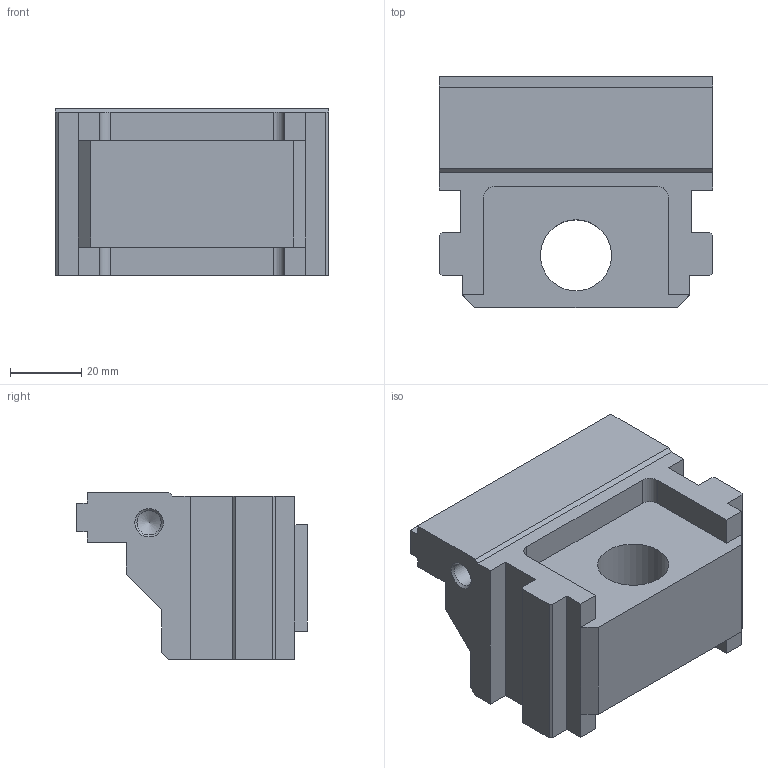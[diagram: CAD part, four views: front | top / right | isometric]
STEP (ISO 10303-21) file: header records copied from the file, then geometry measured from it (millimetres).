
FILE_DESCRIPTION (( 'STEP AP214' ), '1' );
FILE_NAME ('48125-7720.STEP', '2020-03-25T14:48:40', ( '' ), ( '' ), 'SwSTEP 2.0', 'SolidWorks 2019', '' );
FILE_SCHEMA (( 'AUTOMOTIVE_DESIGN' ));
Length unit declared in the file: millimetre
Products named in the file (1): 48125-7720
Bounding box: 77 x 65 x 47 mm (x, y, z)
Volume: 128019 mm3; surface area: 24701.9 mm2
Topology: 1 solids, 1 shells, 58 faces, 161 edges, 105 vertices
Faces by surface type: plane 47, cylinder 7, cone 4
Full cylindrical faces by diameter (mm): 6.8 x2, 20 x1
Entity records: 2439 total; most frequent: CARTESIAN_POINT 312, ORIENTED_EDGE 302, DIRECTION 285, EDGE_CURVE 151, VECTOR 135, LINE 135, VERTEX_POINT 102, AXIS2_PLACEMENT_3D 75
